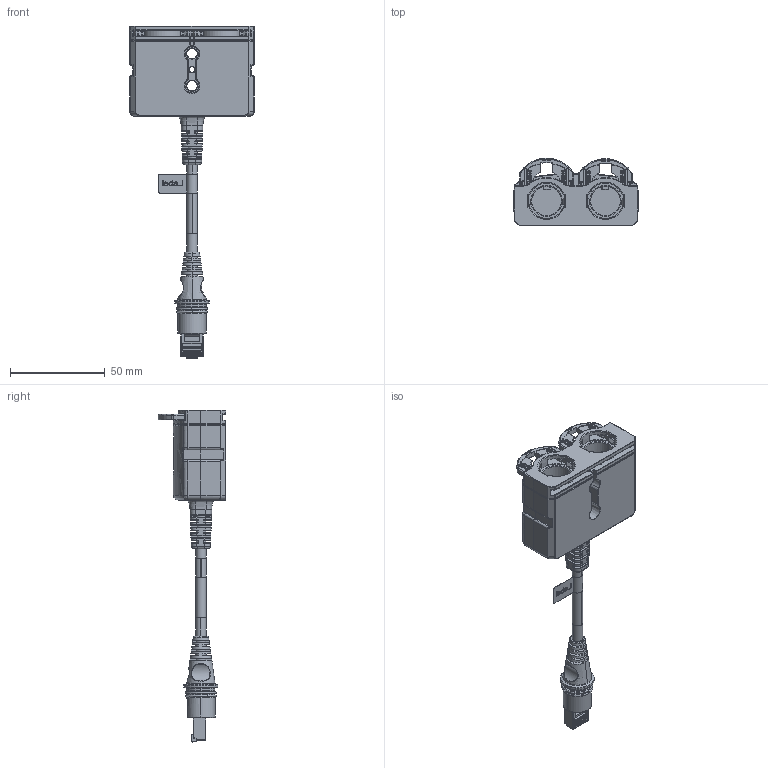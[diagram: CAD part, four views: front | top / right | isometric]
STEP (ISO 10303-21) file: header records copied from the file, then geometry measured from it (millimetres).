
FILE_DESCRIPTION((''),'2;1');
FILE_NAME('0829032_ASM','2020-03-18T13:26:12',('psj'),(''),'CREO PARAMETRIC BY PTC INC, 2019344','CREO PARAMETRIC BY PTC INC, 2019344','');
FILE_SCHEMA(('AUTOMOTIVE_DESIGN { 1 0 10303 214 1 1 1 1 }'));
Products named in the file (5): 0829032-BP; 0829032-LOCK1; 0829032-LOCK2; SHELL-0961094; 0829032_ASM
Assembly tree (4 placements, depth 2):
  0829032_ASM
    0829032-BP
    0829032-LOCK1
    0829032-LOCK2
    SHELL-0961094
Bounding box: 65.51 x 35.54 x 174.85 mm (x, y, z)
Volume: 75363.2 mm3; surface area: 25131.5 mm2
Topology: 7 solids, 8 shells, 3235 faces, 8422 edges, 5263 vertices
Faces by surface type: plane 1861, cylinder 764, bspline 306, torus 204, sphere 60, cone 34, extrusion 6
Entity records: 132946 total; most frequent: CARTESIAN_POINT 38720, ORIENTED_EDGE 16844, DIRECTION 14962, EDGE_CURVE 8422, VECTOR 6008, LINE 6002, VERTEX_POINT 5263, AXIS2_PLACEMENT_3D 4477
